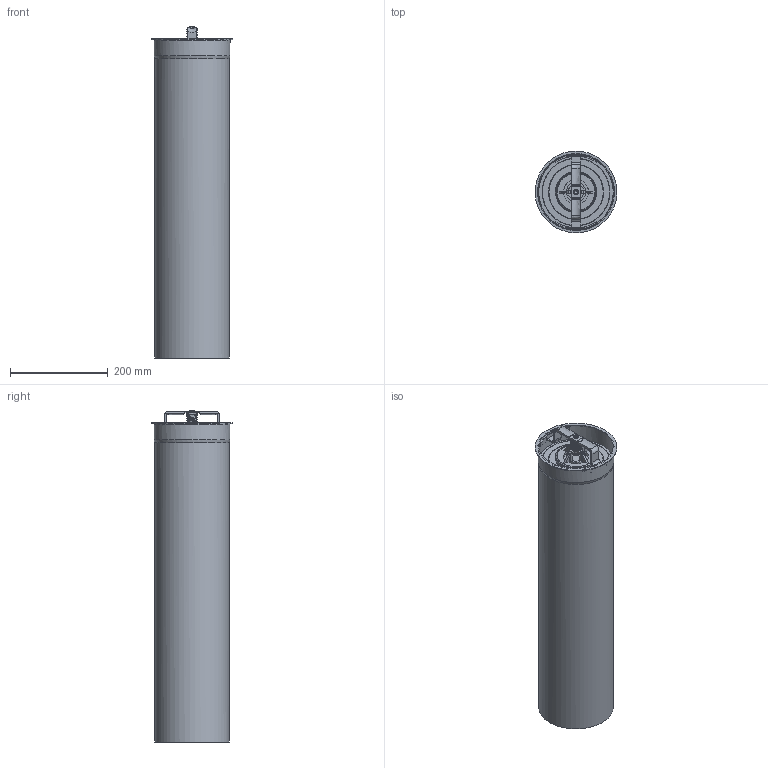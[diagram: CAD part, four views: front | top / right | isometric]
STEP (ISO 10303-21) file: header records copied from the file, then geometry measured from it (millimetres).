
FILE_DESCRIPTION((''),'2;1');
FILE_NAME('U:\Users\t.schleuter\E_700-156.stp','2013-04-12T09:26:27', ('User'),('SDRC'),'I-DEAS Master Series 9','UNIX','Yes');
FILE_SCHEMA(('CONFIG_CONTROL_DESIGN', 'GEOMETRIC_VALIDATION_PROPERTIES_MIM','SHAPE_APPEARANCE_LAYER_MIM'));
Length unit declared in the file: millimetre
Bounding box: 166.7 x 166.99 x 677.61 mm (x, y, z)
Volume: 11135141.1 mm3; surface area: 413532.7 mm2
Topology: 3 solids, 4 shells, 248 faces, 662 edges, 464 vertices
Faces by surface type: bspline 248
Entity records: 10550 total; most frequent: CARTESIAN_POINT 6768, ORIENTED_EDGE 1250, EDGE_CURVE 625, VERTEX_POINT 396, B_SPLINE_CURVE_WITH_KNOTS 334, EDGE_LOOP 277, FACE_OUTER_BOUND 248, ADVANCED_FACE 248
